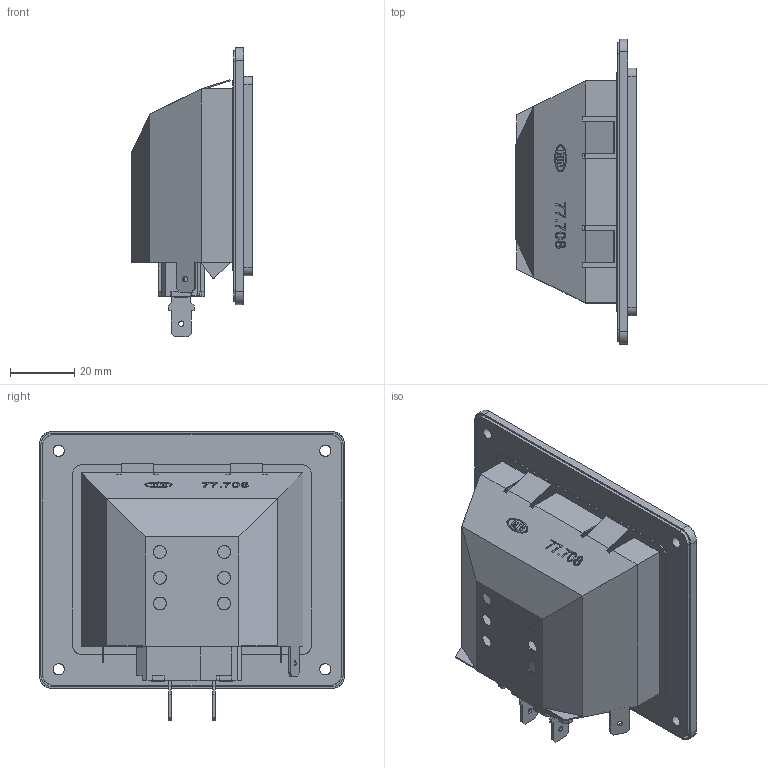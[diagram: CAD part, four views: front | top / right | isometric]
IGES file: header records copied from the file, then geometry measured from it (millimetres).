
Start section: C
Global section: file name: 00Z-Z1G-05.igs; native system:  By UGS Corp.; preprocessor: XPlus GENERIC/IGES 3.0; author: Author; organization: Title; date: 20161007.080706; units: inch
Bounding box: 37.7 x 95 x 89.93 mm (x, y, z)
Surface area: 45918.9 mm2 (no closed solid volume)
Topology: 0 solids, 0 shells, 494 faces, 2758 edges, 2754 vertices
Faces by surface type: bspline 494
